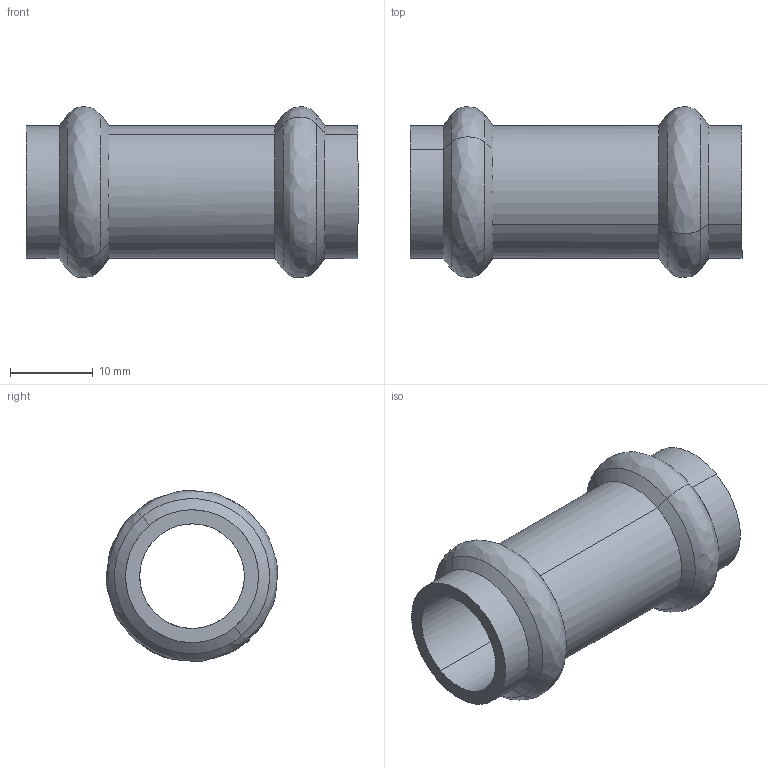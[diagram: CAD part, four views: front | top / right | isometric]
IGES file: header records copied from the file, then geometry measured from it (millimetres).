
Start section: 3D InterOp IGES (Version 25 0 1), Spatial Corp. Copyright (c) 1999-2007.
Global section: file name: pim0004403.igs; native system: Spatial Corp.; preprocessor: 3D InterOp ACIS/IGES; author: Cad-Pim; organization: TransMagic, Inc.; date: 20150430.064001; units: millimetre
Bounding box: 40 x 20.65 x 20.62 mm (x, y, z)
Volume: 4129.7 mm3; surface area: 4092.8 mm2
Topology: 1 solids, 1 shells, 22 faces, 58 edges, 38 vertices
Faces by surface type: cone 8, cylinder 8, bspline 6
